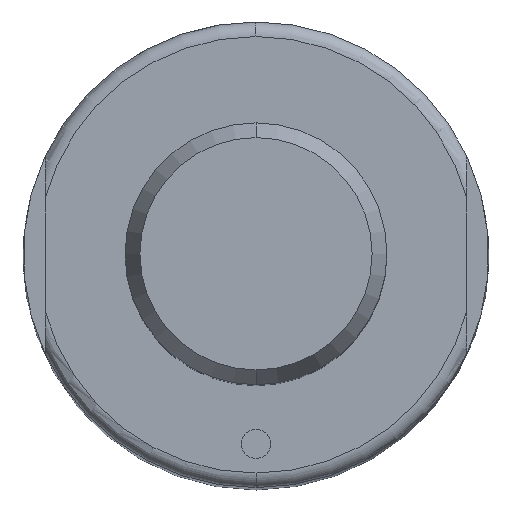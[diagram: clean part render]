
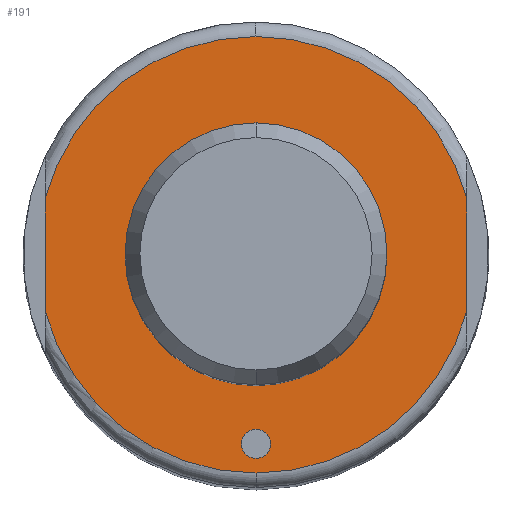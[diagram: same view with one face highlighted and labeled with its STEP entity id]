
A CAD part, top view. The second image highlights one B-rep face of the part: STEP entity #191.
In plain terms, the highlighted planar face has unit normal (0, 0, 1).
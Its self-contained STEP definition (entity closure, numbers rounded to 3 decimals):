
#115=FACE_BOUND('',#292,.T.);
#116=FACE_BOUND('',#293,.T.);
#117=FACE_BOUND('',#294,.T.);
#126=PLANE('',#862);
#191=ADVANCED_FACE('',(#115,#116,#117),#126,.T.);
#292=EDGE_LOOP('',(#515,#516,#517,#518,#519,#520));
#293=EDGE_LOOP('',(#521,#522));
#294=EDGE_LOOP('',(#523,#524));
#303=CIRCLE('',#774,9.);
#304=CIRCLE('',#776,9.);
#310=CIRCLE('',#786,1.);
#311=CIRCLE('',#788,1.);
#343=CIRCLE('',#846,15.);
#344=CIRCLE('',#848,15.);
#348=CIRCLE('',#854,15.);
#352=CIRCLE('',#860,15.);
#515=ORIENTED_EDGE('',*,*,#691,.F.);
#516=ORIENTED_EDGE('',*,*,#690,.F.);
#517=ORIENTED_EDGE('',*,*,#674,.F.);
#518=ORIENTED_EDGE('',*,*,#692,.F.);
#519=ORIENTED_EDGE('',*,*,#672,.F.);
#520=ORIENTED_EDGE('',*,*,#683,.F.);
#521=ORIENTED_EDGE('',*,*,#621,.F.);
#522=ORIENTED_EDGE('',*,*,#620,.F.);
#523=ORIENTED_EDGE('',*,*,#610,.T.);
#524=ORIENTED_EDGE('',*,*,#608,.T.);
#545=VERTEX_POINT('',#1117);
#546=VERTEX_POINT('',#1119);
#551=VERTEX_POINT('',#1138);
#554=VERTEX_POINT('',#1143);
#586=VERTEX_POINT('',#1259);
#588=VERTEX_POINT('',#1263);
#589=VERTEX_POINT('',#1274);
#591=VERTEX_POINT('',#1277);
#595=VERTEX_POINT('',#1298);
#600=VERTEX_POINT('',#1319);
#608=EDGE_CURVE('',#546,#545,#303,.T.);
#610=EDGE_CURVE('',#545,#546,#304,.T.);
#620=EDGE_CURVE('',#554,#551,#310,.T.);
#621=EDGE_CURVE('',#551,#554,#311,.T.);
#672=EDGE_CURVE('',#588,#586,#343,.T.);
#674=EDGE_CURVE('',#589,#591,#344,.T.);
#683=EDGE_CURVE('',#595,#588,#348,.T.);
#690=EDGE_CURVE('',#591,#600,#352,.T.);
#691=EDGE_CURVE('',#600,#595,#727,.T.);
#692=EDGE_CURVE('',#586,#589,#728,.T.);
#727=LINE('',#1322,#763);
#728=LINE('',#1323,#764);
#763=VECTOR('',#1089,1.);
#764=VECTOR('',#1090,1.);
#774=AXIS2_PLACEMENT_3D('',#1118,#884,#885);
#776=AXIS2_PLACEMENT_3D('',#1122,#889,#890);
#786=AXIS2_PLACEMENT_3D('',#1144,#913,#914);
#788=AXIS2_PLACEMENT_3D('',#1146,#917,#918);
#846=AXIS2_PLACEMENT_3D('',#1264,#1051,#1052);
#848=AXIS2_PLACEMENT_3D('',#1276,#1055,#1056);
#854=AXIS2_PLACEMENT_3D('',#1300,#1071,#1072);
#860=AXIS2_PLACEMENT_3D('',#1320,#1085,#1086);
#862=AXIS2_PLACEMENT_3D('',#1324,#1091,#1092);
#884=DIRECTION('',(0.,0.,-1.));
#885=DIRECTION('',(-1.,0.,0.));
#889=DIRECTION('',(0.,0.,-1.));
#890=DIRECTION('',(1.,0.,0.));
#913=DIRECTION('',(0.,0.,1.));
#914=DIRECTION('',(-1.,0.,0.));
#917=DIRECTION('',(0.,0.,1.));
#918=DIRECTION('',(1.,0.,0.));
#1051=DIRECTION('',(0.,0.,-1.));
#1052=DIRECTION('',(-1.,0.,0.));
#1055=DIRECTION('',(0.,0.,-1.));
#1056=DIRECTION('',(-1.,0.,0.));
#1071=DIRECTION('',(0.,0.,-1.));
#1072=DIRECTION('',(1.,0.,0.));
#1085=DIRECTION('',(0.,0.,-1.));
#1086=DIRECTION('',(1.,0.,0.));
#1089=DIRECTION('',(0.,1.,0.));
#1090=DIRECTION('',(0.,-1.,0.));
#1091=DIRECTION('',(0.,0.,1.));
#1092=DIRECTION('',(1.,0.,0.));
#1117=CARTESIAN_POINT('',(0.,-9.,95.));
#1118=CARTESIAN_POINT('',(0.,0.,95.));
#1119=CARTESIAN_POINT('',(0.,9.,95.));
#1122=CARTESIAN_POINT('',(0.,0.,95.));
#1138=CARTESIAN_POINT('',(0.,-12.,95.));
#1143=CARTESIAN_POINT('',(0.,-14.,95.));
#1144=CARTESIAN_POINT('',(0.,-13.,95.));
#1146=CARTESIAN_POINT('',(0.,-13.,95.));
#1259=CARTESIAN_POINT('',(14.5,3.841,95.));
#1263=CARTESIAN_POINT('',(0.,15.,95.));
#1264=CARTESIAN_POINT('',(0.,0.,95.));
#1274=CARTESIAN_POINT('',(14.5,-3.841,95.));
#1276=CARTESIAN_POINT('',(0.,0.,95.));
#1277=CARTESIAN_POINT('',(0.,-15.,95.));
#1298=CARTESIAN_POINT('',(-14.5,3.841,95.));
#1300=CARTESIAN_POINT('',(0.,0.,95.));
#1319=CARTESIAN_POINT('',(-14.5,-3.841,95.));
#1320=CARTESIAN_POINT('',(0.,0.,95.));
#1322=CARTESIAN_POINT('',(-14.5,0.,95.));
#1323=CARTESIAN_POINT('',(14.5,0.,95.));
#1324=CARTESIAN_POINT('',(0.,0.,95.));
